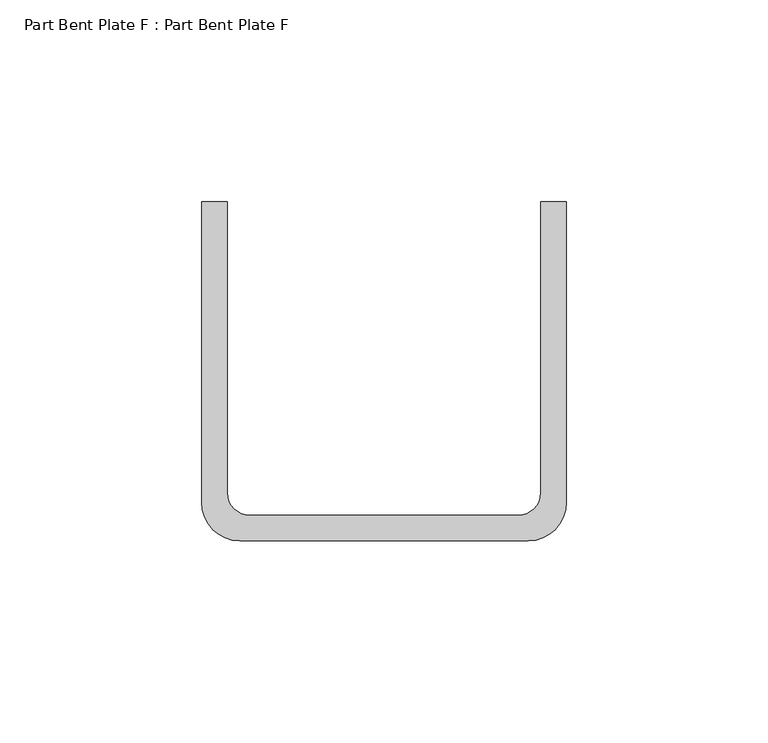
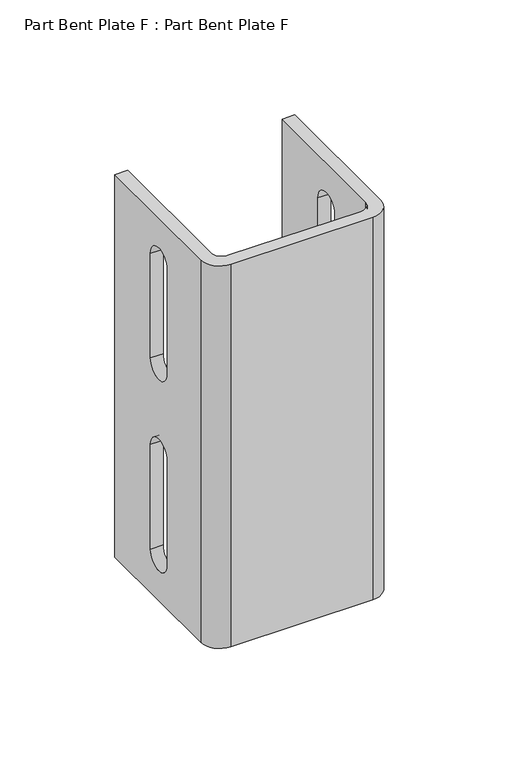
"""IFC4 building model written with IfcOpenShell, lengths in millimetres: proxy geometry, Part Bent Plate F : Part Bent Plate F."""

import ifcopenshell
import ifcopenshell.guid

model = None  # the IFC model being written
_history = None  # IfcOwnerHistory: only IFC2X3 demands one
_inside = {}  # id of a spatial element -> (the spatial element, [elements in it])
_under = {}  # id of a project, library or spatial element -> (it, [spatial elements below it])
_declared = {}  # id of a project -> (the project, [libraries it declares])
_typed = {}  # id of a type object -> (the type object, [elements of that type])
_made_of = {}  # id of a material, layer set ... -> (it, [elements and type objects made of it])


def new_model(schema):
    """Start an empty IFC model of exactly this schema.

    Asked for "IFC4X3", IfcOpenShell would pick the latest addendum, in which some entities
    have other attributes; the version numbers below select the first issue.
    IFC2X3 requires an IfcOwnerHistory on every rooted entity: one is made here for all.
    """
    global model, _history
    if schema == "IFC4X3":
        model = ifcopenshell.file(schema_version=(4, 3, 0, 0))
    else:
        model = ifcopenshell.file(schema=schema)
    _inside.clear()
    _under.clear()
    _declared.clear()
    _typed.clear()
    _made_of.clear()
    _history = None
    if model.schema == "IFC2X3":
        org = make("IfcOrganization", Name="unknown")
        user = make(
            "IfcPersonAndOrganization",
            ThePerson=make("IfcPerson", FamilyName="unknown"),
            TheOrganization=org,
        )
        app = make(
            "IfcApplication",
            ApplicationDeveloper=org,
            Version="unknown",
            ApplicationFullName="unknown",
            ApplicationIdentifier="unknown",
        )
        _history = make(
            "IfcOwnerHistory",
            OwningUser=user,
            OwningApplication=app,
            ChangeAction="ADDED",
            CreationDate=0,
        )
    return model


def make(cls, **values):
    """One entity of the class cls with the attributes given. An attribute that is None is left unset."""
    return model.create_entity(
        cls, **{name: value for name, value in values.items() if value is not None}
    )


def rooted(cls, **values):
    """An entity with a GlobalId (a new one), such as an element, a storey or a relation."""
    return make(cls, GlobalId=ifcopenshell.guid.new(), OwnerHistory=_history, **values)


def si_unit(unit_type, name, prefix=None):
    """IfcSIUnit, for example si_unit("LENGTHUNIT", "METRE", prefix="MILLI")."""
    return make("IfcSIUnit", UnitType=unit_type, Prefix=prefix, Name=name)


def assignment(units):
    """IfcUnitAssignment: the units of a project."""
    return None if units is None else make("IfcUnitAssignment", Units=units)


def point(xyz):
    """IfcCartesianPoint."""
    return None if xyz is None else make("IfcCartesianPoint", Coordinates=xyz)


def direction(xyz):
    """IfcDirection."""
    return None if xyz is None else make("IfcDirection", DirectionRatios=xyz)


def frame(location, z_axis=None, x_axis=None):
    """IfcAxis2Placement3D, a coordinate frame: its origin and axes. An axis left out is left unset."""
    return make(
        "IfcAxis2Placement3D",
        Location=point(location),
        Axis=direction(z_axis),
        RefDirection=direction(x_axis),
    )


def origin():
    """The frame at (0, 0, 0) with its axes left unset."""
    return frame((0.0, 0.0, 0.0))


def place(relative_to, where):
    """IfcLocalPlacement: puts the frame where relative to a parent placement (None: the world)."""
    return make(
        "IfcLocalPlacement", PlacementRelTo=relative_to, RelativePlacement=where
    )


def context(
    kind, dimensions, precision=None, world=None, true_north=None, identifier=None
):
    """IfcGeometricRepresentationContext, for example the 3D "Model" context."""
    return make(
        "IfcGeometricRepresentationContext",
        ContextIdentifier=identifier,
        ContextType=kind,
        CoordinateSpaceDimension=dimensions,
        Precision=precision,
        WorldCoordinateSystem=world,
        TrueNorth=true_north,
    )


def project(units=None, contexts=None):
    """IfcProject with its units and contexts."""
    return rooted(
        "IfcProject",
        Name="project",
        RepresentationContexts=contexts,
        UnitsInContext=assignment(units),
    )


def spatial(cls, under=None, at=None, **own):
    """A site, building, storey or space (cls), placed at a placement, below another one or the project."""
    s = rooted(cls, ObjectPlacement=at, **own)
    if under is not None:
        _under.setdefault(under.id(), (under, []))[1].append(s)
    return s


def polyline(points):
    """IfcPolyline through the points."""
    return make("IfcPolyline", Points=[point(p) for p in points])


def circle_curve(where, radius):
    """IfcCircle in the frame where."""
    return make("IfcCircle", Position=where, Radius=radius)


def shape(context_of_items, identifier, shape_type, items):
    """IfcShapeRepresentation: the items that make up one representation, for example the "Body"."""
    return make(
        "IfcShapeRepresentation",
        ContextOfItems=context_of_items,
        RepresentationIdentifier=identifier,
        RepresentationType=shape_type,
        Items=items,
    )


def source(mapping_origin, context_of_items, identifier, shape_type, items):
    """IfcRepresentationMap: a shape defined once, which mapped items show again and again."""
    return make(
        "IfcRepresentationMap",
        MappingOrigin=mapping_origin,
        MappedRepresentation=shape(context_of_items, identifier, shape_type, items),
    )


def transform(
    local_origin,
    x_axis=None,
    y_axis=None,
    z_axis=None,
    scale=None,
    scale2=None,
    scale3=None,
    uniform=True,
):
    """IfcCartesianTransformationOperator3D, or its non-uniform kind. x_axis, y_axis, z_axis: its Axis1, 2, 3."""
    if uniform:
        return make(
            "IfcCartesianTransformationOperator3D",
            Axis1=direction(x_axis),
            Axis2=direction(y_axis),
            LocalOrigin=point(local_origin),
            Scale=scale,
            Axis3=direction(z_axis),
        )
    return make(
        "IfcCartesianTransformationOperator3DnonUniform",
        Axis1=direction(x_axis),
        Axis2=direction(y_axis),
        LocalOrigin=point(local_origin),
        Scale=scale,
        Axis3=direction(z_axis),
        Scale2=scale2,
        Scale3=scale3,
    )


def mapped(mapping_source, mapping_target):
    """IfcMappedItem: shows the shape of a source again, moved by a transform."""
    return make(
        "IfcMappedItem", MappingSource=mapping_source, MappingTarget=mapping_target
    )


def made_of(thing, what):
    """Note that an element or type object is made of a material, layer set ...; save() writes the relation."""
    if what is not None:
        _made_of.setdefault(what.id(), (what, []))[1].append(thing)
    return thing


def element(
    cls,
    number,
    at=None,
    inside=None,
    cuts=None,
    type_object=None,
    material=None,
    context=None,
    identifier="Body",
    shape_type=None,
    held_by="IfcProductDefinitionShape",
    body=None,
    shapes=None,
    **own,
):
    """One element of the class cls, such as IfcWall. Its Tag is "e" and its number.

    at: its placement. inside: the storey or other place that contains it. cuts: it is an
    opening in that element (IfcRelVoidsElement). A single representation is given by context,
    identifier, shape_type and body (its items); several are given by shapes. held_by: the class
    of the entity that holds the representations. save() writes the other relations.
    """
    e = rooted(cls, Tag="e%d" % number, ObjectPlacement=at, **own)
    if body is not None:
        shapes = [shape(context, identifier, shape_type, body)]
    if shapes is not None:
        e.Representation = make(held_by, Representations=shapes)
    if inside is not None:
        _inside.setdefault(inside.id(), (inside, []))[1].append(e)
    if cuts is not None:
        rooted(
            "IfcRelVoidsElement", RelatingBuildingElement=cuts, RelatedOpeningElement=e
        )
    if type_object is not None:
        _typed.setdefault(type_object.id(), (type_object, []))[1].append(e)
    return made_of(e, material)


def aggregate(whole, parts):
    """IfcRelAggregates: a whole, such as a stair, and the parts it consists of."""
    return rooted("IfcRelAggregates", RelatingObject=whole, RelatedObjects=parts)


def save(model, path):
    """Write the relations noted so far, then the file.

    IfcRelAggregates (storeys below a building ...), IfcRelContainedInSpatialStructure (elements
    in a storey), IfcRelDefinesByType, IfcRelAssociatesMaterial and IfcRelDeclares: one each for
    every whole, place, type object, material and project.
    """
    for whole, parts in _under.values():
        aggregate(whole, parts)
    for where, things in _inside.values():
        rooted(
            "IfcRelContainedInSpatialStructure",
            RelatedElements=things,
            RelatingStructure=where,
        )
    for kind, things in _typed.values():
        rooted("IfcRelDefinesByType", RelatedObjects=things, RelatingType=kind)
    for what, things in _made_of.values():
        rooted("IfcRelAssociatesMaterial", RelatedObjects=things, RelatingMaterial=what)
    for by, libraries in _declared.values():
        rooted("IfcRelDeclares", RelatingContext=by, RelatedDefinitions=libraries)
    model.write(path)


def plane_surface(at):
    """IfcPlane: the flat surface through the origin of the frame at, square to its z axis."""
    return make("IfcPlane", Position=at)


def cylinder_surface(at, radius):
    """IfcCylindricalSurface: all points at the distance radius from the z axis of the frame at."""
    return make("IfcCylindricalSurface", Position=at, Radius=radius)


def revolved_surface(curve, axis_point, axis_direction):
    """IfcSurfaceOfRevolution: the curve turned about the line through axis_point along axis_direction."""
    return make(
        "IfcSurfaceOfRevolution",
        SweptCurve=make("IfcArbitraryOpenProfileDef", ProfileType="CURVE", Curve=curve),
        AxisPosition=make("IfcAxis1Placement", Location=point(axis_point), Axis=direction(axis_direction)),
    )


def advanced_brep(points, edges, surfaces, faces):
    """IfcAdvancedBrep: a solid bounded by faces that lie on surfaces and meet in shared edges.

    An edge is (start, end): straight between two places in points (the first is 0);
    or (start, end, curve); or (start, end, curve, False) where it runs against its curve.
    A face is (place in surfaces, loops), or (place, loops, False) where it looks against
    its surface's normal. A loop lists edges by number (the first is 1), with a minus sign
    where the edge is run from its end to its start. The first loop is the outer one.
    """
    corners = [point(p) for p in points]
    vertices = [make("IfcVertexPoint", VertexGeometry=c) for c in corners]
    made = []
    for start, end, *more in edges:
        made.append(
            make(
                "IfcEdgeCurve",
                EdgeStart=vertices[start],
                EdgeEnd=vertices[end],
                EdgeGeometry=more[0] if more else make("IfcPolyline", Points=[corners[start], corners[end]]),
                SameSense=more[1] if len(more) > 1 else True,
            )
        )
    hull = []
    for where, loops, *sense in faces:
        bounds = []
        for j, loop in enumerate(loops):
            ring = [make("IfcOrientedEdge", EdgeElement=made[abs(k) - 1], Orientation=k > 0) for k in loop]
            bounds.append(
                make(
                    "IfcFaceOuterBound" if j == 0 else "IfcFaceBound",
                    Bound=make("IfcEdgeLoop", EdgeList=ring),
                    Orientation=True,
                )
            )
        hull.append(make("IfcAdvancedFace", Bounds=bounds, FaceSurface=surfaces[where], SameSense=sense[0] if sense else True))
    return make("IfcAdvancedBrep", Outer=make("IfcClosedShell", CfsFaces=hull))


def part_bent_plate_f_part_bent_plate_f_93af9144(model_context):
    return source(origin(), model_context, "Body", "AdvancedBrep", [
        advanced_brep(
        [(-45.24375, 42.06875, 203.2), (-45.24375, -32.54375, 203.2), (-35.71875, -42.06875, 203.2), (35.71875, -42.06875, 203.2), (45.24375, -32.54375, 203.2), (45.24375, 42.06875, 203.2), (38.89375, 42.06875, 203.2), (38.89375, -30.1625, 203.2), (33.3375, -35.71875, 203.2), (-33.3375, -35.71875, 203.2), (-38.89375, -30.1625, 203.2), (-38.89375, 42.06875, 203.2), (-45.24375, -32.54375, 0.0), (-45.24375, 42.06875, 0.0), (-38.89375, 42.06875, 0.0), (-38.89375, -30.1625, 0.0), (-33.3375, -35.71875, 0.0), (33.3375, -35.71875, 0.0), (38.89375, -30.1625, 0.0), (38.89375, 42.06875, 0.0), (45.24375, 42.06875, 0.0), (45.24375, -32.54375, 0.0), (35.71875, -42.06875, 0.0), (-35.71875, -42.06875, 0.0), (-45.24375, -3.175, 180.1874249), (-45.24375, -3.175, 124.6125751), (-45.24375, 11.1125, 124.6125751), (-45.24375, 11.1125, 180.1874249), (-45.24375, -3.175, 78.5874249), (-45.24375, -3.175, 23.0125751), (-45.24375, 11.1125, 23.0125751), (-45.24375, 11.1125, 78.5874249), (45.24375, -3.175, 124.6125751), (45.24375, -3.175, 180.1874249), (45.24375, 11.1125, 180.1874249), (45.24375, 11.1125, 124.6125751), (45.24375, -3.175, 23.0125751), (45.24375, -3.175, 78.5874249), (45.24375, 11.1125, 78.5874249), (45.24375, 11.1125, 23.0125751), (38.89375, -3.175, 180.1874249), (38.89375, -3.175, 124.6125751), (38.89375, 11.1125, 124.6125751), (38.89375, 11.1125, 180.1874249), (38.89375, -3.175, 78.5874249), (38.89375, -3.175, 23.0125751), (38.89375, 11.1125, 23.0125751), (38.89375, 11.1125, 78.5874249), (-38.89375, -3.175, 124.6125751), (-38.89375, -3.175, 180.1874249), (-38.89375, 11.1125, 180.1874249), (-38.89375, 11.1125, 124.6125751), (-38.89375, -3.175, 23.0125751), (-38.89375, -3.175, 78.5874249), (-38.89375, 11.1125, 78.5874249), (-38.89375, 11.1125, 23.0125751)],
        [
            (0, 1),
            (1, 2, circle_curve(frame((-35.71875, -32.54375, 203.2), z_axis=(0.0, 0.0, 1.0), x_axis=(1.0, 0.0, 0.0)), 9.525)),
            (2, 3),
            (3, 4, circle_curve(frame((35.71875, -32.54375, 203.2), z_axis=(0.0, 0.0, 1.0), x_axis=(1.0, 0.0, 0.0)), 9.525)),
            (4, 5),
            (5, 6),
            (6, 7),
            (7, 8, circle_curve(frame((33.3375, -30.1625, 203.2), z_axis=(0.0, 0.0, -1.0), x_axis=(1.0, 0.0, 0.0)), 5.55625)),
            (8, 9),
            (9, 10, circle_curve(frame((-33.3375, -30.1625, 203.2), z_axis=(0.0, 0.0, -1.0), x_axis=(1.0, 0.0, 0.0)), 5.55625)),
            (10, 11),
            (11, 0),
            (12, 13),
            (13, 14),
            (14, 15),
            (15, 16, circle_curve(frame((-33.3375, -30.1625, 0.0), z_axis=(0.0, 0.0, 1.0), x_axis=(1.0, 0.0, 0.0)), 5.55625)),
            (16, 17),
            (17, 18, circle_curve(frame((33.3375, -30.1625, 0.0), z_axis=(0.0, 0.0, 1.0), x_axis=(1.0, 0.0, 0.0)), 5.55625)),
            (18, 19),
            (19, 20),
            (20, 21),
            (21, 22, circle_curve(frame((35.71875, -32.54375, 0.0), z_axis=(0.0, 0.0, -1.0), x_axis=(1.0, 0.0, 0.0)), 9.525)),
            (22, 23),
            (23, 12, circle_curve(frame((-35.71875, -32.54375, 0.0), z_axis=(0.0, 0.0, -1.0), x_axis=(1.0, 0.0, 0.0)), 9.525)),
            (0, 13),
            (12, 1),
            (24, 25),
            (25, 26, circle_curve(frame((-45.24375, 3.96875, 124.6125751), z_axis=(1.0, 0.0, 0.0), x_axis=(0.0, -1.0, 0.0)), 7.14375)),
            (26, 27),
            (27, 24, circle_curve(frame((-45.24375, 3.96875, 180.1874249), z_axis=(1.0, 0.0, 0.0), x_axis=(0.0, -1.0, 0.0)), 7.14375)),
            (28, 29),
            (29, 30, circle_curve(frame((-45.24375, 3.96875, 23.0125751), z_axis=(1.0, 0.0, 0.0), x_axis=(0.0, -1.0, 0.0)), 7.14375)),
            (30, 31),
            (31, 28, circle_curve(frame((-45.24375, 3.96875, 78.5874249), z_axis=(1.0, 0.0, 0.0), x_axis=(0.0, -1.0, 0.0)), 7.14375)),
            (23, 2),
            (22, 3),
            (21, 4),
            (20, 5),
            (32, 33),
            (33, 34, circle_curve(frame((45.24375, 3.96875, 180.1874249), z_axis=(-1.0, 0.0, 0.0), x_axis=(0.0, -1.0, 0.0)), 7.14375)),
            (34, 35),
            (35, 32, circle_curve(frame((45.24375, 3.96875, 124.6125751), z_axis=(-1.0, 0.0, 0.0), x_axis=(0.0, -1.0, 0.0)), 7.14375)),
            (36, 37),
            (37, 38, circle_curve(frame((45.24375, 3.96875, 78.5874249), z_axis=(-1.0, 0.0, 0.0), x_axis=(0.0, -1.0, 0.0)), 7.14375)),
            (38, 39),
            (39, 36, circle_curve(frame((45.24375, 3.96875, 23.0125751), z_axis=(-1.0, 0.0, 0.0), x_axis=(0.0, -1.0, 0.0)), 7.14375)),
            (6, 19),
            (18, 7),
            (40, 41),
            (41, 42, circle_curve(frame((38.89375, 3.96875, 124.6125751), z_axis=(1.0, 0.0, 0.0), x_axis=(0.0, -1.0, 0.0)), 7.14375)),
            (42, 43),
            (43, 40, circle_curve(frame((38.89375, 3.96875, 180.1874249), z_axis=(1.0, 0.0, 0.0), x_axis=(0.0, -1.0, 0.0)), 7.14375)),
            (44, 45),
            (45, 46, circle_curve(frame((38.89375, 3.96875, 23.0125751), z_axis=(1.0, 0.0, 0.0), x_axis=(0.0, -1.0, 0.0)), 7.14375)),
            (46, 47),
            (47, 44, circle_curve(frame((38.89375, 3.96875, 78.5874249), z_axis=(1.0, 0.0, 0.0), x_axis=(0.0, -1.0, 0.0)), 7.14375)),
            (17, 8),
            (16, 9),
            (15, 10),
            (14, 11),
            (48, 49),
            (49, 50, circle_curve(frame((-38.89375, 3.96875, 180.1874249), z_axis=(-1.0, 0.0, 0.0), x_axis=(0.0, -1.0, 0.0)), 7.14375)),
            (50, 51),
            (51, 48, circle_curve(frame((-38.89375, 3.96875, 124.6125751), z_axis=(-1.0, 0.0, 0.0), x_axis=(0.0, -1.0, 0.0)), 7.14375)),
            (52, 53),
            (53, 54, circle_curve(frame((-38.89375, 3.96875, 78.5874249), z_axis=(-1.0, 0.0, 0.0), x_axis=(0.0, -1.0, 0.0)), 7.14375)),
            (54, 55),
            (55, 52, circle_curve(frame((-38.89375, 3.96875, 23.0125751), z_axis=(-1.0, 0.0, 0.0), x_axis=(0.0, -1.0, 0.0)), 7.14375)),
            (24, 49),
            (48, 25),
            (27, 50),
            (26, 51),
            (32, 41),
            (40, 33),
            (35, 42),
            (34, 43),
            (44, 37),
            (36, 45),
            (39, 46),
            (38, 47),
            (52, 29),
            (28, 53),
            (31, 54),
            (30, 55),
        ],
        [
            plane_surface(frame((-26.19375, -32.54375, 203.2), z_axis=(0.0, 0.0, 1.0), x_axis=(0.0, 1.0, 0.0))),
            plane_surface(frame((-26.19375, -32.54375, 0.0), z_axis=(0.0, 0.0, -1.0), x_axis=(0.0, -1.0, 0.0))),
            plane_surface(frame((-45.24375, 42.06875, 203.2), z_axis=(-1.0, 0.0, 0.0), x_axis=(0.0, 0.0, -1.0))),
            cylinder_surface(frame((-35.71875, -32.54375, 0.0), z_axis=(0.0, 0.0, 1.0), x_axis=(1.0, 0.0, 0.0)), 9.525),
            plane_surface(frame((-35.71875, -42.06875, 203.2), z_axis=(0.0, -1.0, 0.0), x_axis=(0.0, 0.0, -1.0))),
            cylinder_surface(frame((35.71875, -32.54375, 0.0), z_axis=(0.0, 0.0, 1.0), x_axis=(1.0, 0.0, 0.0)), 9.525),
            plane_surface(frame((45.24375, -32.54375, 203.2), z_axis=(1.0, 0.0, 0.0), x_axis=(0.0, 0.0, -1.0))),
            plane_surface(frame((38.89375, 42.06875, 203.2), z_axis=(-1.0, 0.0, 0.0), x_axis=(0.0, 0.0, -1.0))),
            revolved_surface(polyline([(38.89375, -30.1625, 0.0), (38.89375, -30.1625, 203.2)]), (33.3375, -30.1625, 0.0), (0.0, 0.0, -1.0)),
            plane_surface(frame((33.3375, -35.71875, 203.2), z_axis=(0.0, 1.0, 0.0), x_axis=(0.0, 0.0, -1.0))),
            revolved_surface(polyline([(-27.78125, -30.1625, 0.0), (-27.78125, -30.1625, 203.2)]), (-33.3375, -30.1625, 0.0), (0.0, 0.0, -1.0)),
            plane_surface(frame((-38.89375, -30.1625, 203.2), z_axis=(1.0, 0.0, 0.0), x_axis=(0.0, 0.0, -1.0))),
            plane_surface(frame((45.24375, 42.06875, 203.2), z_axis=(0.0, 1.0, 0.0), x_axis=(0.0, 0.0, -1.0))),
            plane_surface(frame((-38.89375, 42.06875, 203.2), z_axis=(0.0, 1.0, 0.0), x_axis=(0.0, 0.0, -1.0))),
            plane_surface(frame((-48.41875, -3.175, 124.6125751), z_axis=(0.0, 1.0, 0.0), x_axis=(1.0, 0.0, 0.0))),
            revolved_surface(polyline([(-45.24375, -3.175, 180.1874249), (-38.89375, -3.175, 180.1874249)]), (-38.89375, 3.96875, 180.1874249), (-1.0, 0.0, 0.0)),
            plane_surface(frame((-48.41875, 11.1125, 180.1874249), z_axis=(0.0, -1.0, 0.0), x_axis=(1.0, 0.0, 0.0))),
            revolved_surface(polyline([(-45.24375, -3.175, 124.6125751), (-38.89375, -3.175, 124.6125751)]), (-38.89375, 3.96875, 124.6125751), (-1.0, 0.0, 0.0)),
            plane_surface(frame((48.41875, -3.175, 180.1874249), z_axis=(0.0, 1.0, 0.0), x_axis=(-1.0, 0.0, 0.0))),
            revolved_surface(polyline([(45.24375, -3.175, 124.6125751), (38.89375, -3.175, 124.6125751)]), (38.89375, 3.96875, 124.6125751), (1.0, 0.0, 0.0)),
            plane_surface(frame((48.41875, 11.1125, 124.6125751), z_axis=(0.0, -1.0, 0.0), x_axis=(-1.0, 0.0, 0.0))),
            revolved_surface(polyline([(45.24375, -3.175, 180.1874249), (38.89375, -3.175, 180.1874249)]), (38.89375, 3.96875, 180.1874249), (1.0, 0.0, 0.0)),
            plane_surface(frame((48.41875, -3.175, 78.5874249), z_axis=(0.0, 1.0, 0.0), x_axis=(-1.0, 0.0, 0.0))),
            revolved_surface(polyline([(45.24375, -3.175, 23.0125751), (38.89375, -3.175, 23.0125751)]), (38.89375, 3.96875, 23.0125751), (1.0, 0.0, 0.0)),
            plane_surface(frame((48.41875, 11.1125, 23.0125751), z_axis=(0.0, -1.0, 0.0), x_axis=(-1.0, 0.0, 0.0))),
            revolved_surface(polyline([(45.24375, -3.175, 78.5874249), (38.89375, -3.175, 78.5874249)]), (38.89375, 3.96875, 78.5874249), (1.0, 0.0, 0.0)),
            plane_surface(frame((-48.41875, -3.175, 23.0125751), z_axis=(0.0, 1.0, 0.0), x_axis=(1.0, 0.0, 0.0))),
            revolved_surface(polyline([(-45.24375, -3.175, 78.5874249), (-38.89375, -3.175, 78.5874249)]), (-38.89375, 3.96875, 78.5874249), (-1.0, 0.0, 0.0)),
            plane_surface(frame((-48.41875, 11.1125, 78.5874249), z_axis=(0.0, -1.0, 0.0), x_axis=(1.0, 0.0, 0.0))),
            revolved_surface(polyline([(-45.24375, -3.175, 23.0125751), (-38.89375, -3.175, 23.0125751)]), (-38.89375, 3.96875, 23.0125751), (-1.0, 0.0, 0.0)),
        ],
        [
            (0, [[1, 2, 3, 4, 5, 6, 7, 8, 9, 10, 11, 12]]),
            (1, [[13, 14, 15, 16, 17, 18, 19, 20, 21, 22, 23, 24]]),
            (2, [[-1, 25, -13, 26], [27, 28, 29, 30], [31, 32, 33, 34]]),
            (3, [[-2, -26, -24, 35]]),
            (4, [[-3, -35, -23, 36]]),
            (5, [[-4, -36, -22, 37]]),
            (6, [[-5, -37, -21, 38], [39, 40, 41, 42], [43, 44, 45, 46]]),
            (7, [[-7, 47, -19, 48], [49, 50, 51, 52], [53, 54, 55, 56]]),
            (8, [[-8, -48, -18, 57]]),
            (9, [[-9, -57, -17, 58]]),
            (10, [[-10, -58, -16, 59]]),
            (11, [[-11, -59, -15, 60], [61, 62, 63, 64], [65, 66, 67, 68]]),
            (12, [[-6, -38, -20, -47]]),
            (13, [[-12, -60, -14, -25]]),
            (14, [[69, -61, 70, -27]]),
            (15, [[-69, -30, 71, -62]]),
            (16, [[72, -63, -71, -29]]),
            (17, [[-70, -64, -72, -28]]),
            (18, [[73, -49, 74, -39]]),
            (19, [[-73, -42, 75, -50]]),
            (20, [[76, -51, -75, -41]]),
            (21, [[-74, -52, -76, -40]]),
            (22, [[77, -43, 78, -53]]),
            (23, [[-78, -46, 79, -54]]),
            (24, [[-79, -45, 80, -55]]),
            (25, [[-77, -56, -80, -44]]),
            (26, [[81, -31, 82, -65]]),
            (27, [[-82, -34, 83, -66]]),
            (28, [[-83, -33, 84, -67]]),
            (29, [[-81, -68, -84, -32]]),
        ],
    ),
    ])


if __name__ == "__main__":
    model = new_model("IFC4")
    model_context = context("Model", 3, world=origin())
    ifc_project = project(units=[si_unit("LENGTHUNIT", "METRE", prefix="MILLI")], contexts=[model_context])
    site = spatial("IfcSite", under=ifc_project)
    building = spatial("IfcBuilding", under=site)
    placement = place(None, origin())
    part_bent_plate_f_part_bent_plate_f_shape = part_bent_plate_f_part_bent_plate_f_93af9144(model_context)
    element("IfcBuildingElementProxy", 1, Name="Part Bent Plate F : Part Bent Plate F", ObjectType="Part Bent Plate F : Part Bent Plate F", at=placement, inside=building, context=model_context, shape_type="MappedRepresentation", body=[
        mapped(part_bent_plate_f_part_bent_plate_f_shape, transform((0.0, 0.0, 0.0), x_axis=(1.0, 0.0, 0.0), y_axis=(0.0, 1.0, 0.0), z_axis=(0.0, 0.0, 1.0))),
    ])
    save(model, "model.ifc")
